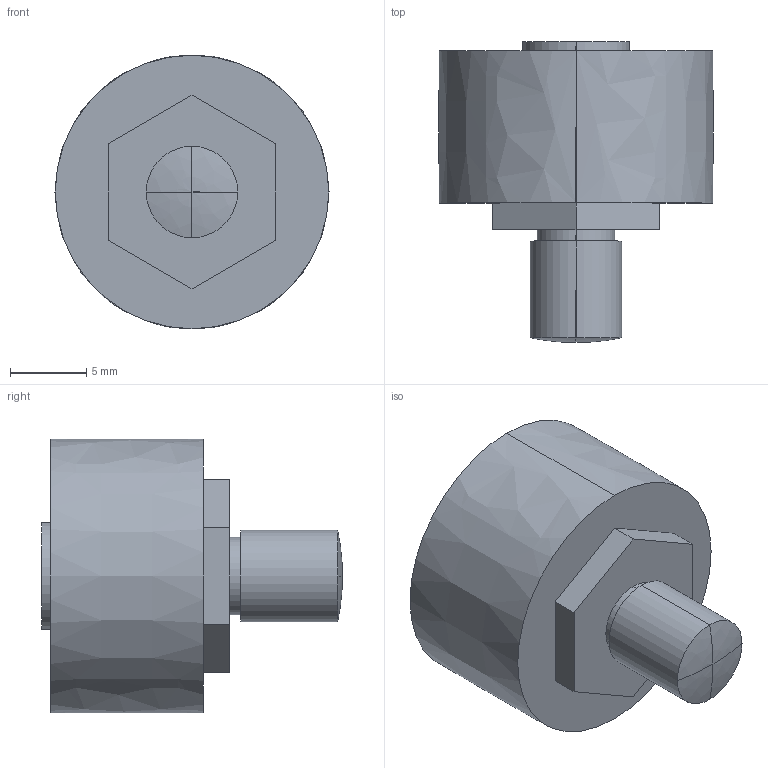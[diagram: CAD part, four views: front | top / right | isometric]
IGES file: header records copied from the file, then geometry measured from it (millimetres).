
Start section: 3D InterOp IGES (v. 2019 1.0.2), Spatial Corp. Copyright (c) 1999-2017.
Global section: file name: BHR 18 CNS.igs; native system: Spatial Corp.; preprocessor: 3D InterOp GENERIC/IGES 3.0; author: Noname; organization: Noname; date: 20220628.172227; units: millimetre
Bounding box: 17.99 x 19.75 x 17.95 mm (x, y, z)
Surface area: 1312.7 mm2 (no closed solid volume)
Topology: 0 solids, 0 shells, 30 faces, 136 edges, 132 vertices
Faces by surface type: extrusion 18, revolution 10, bspline 2
